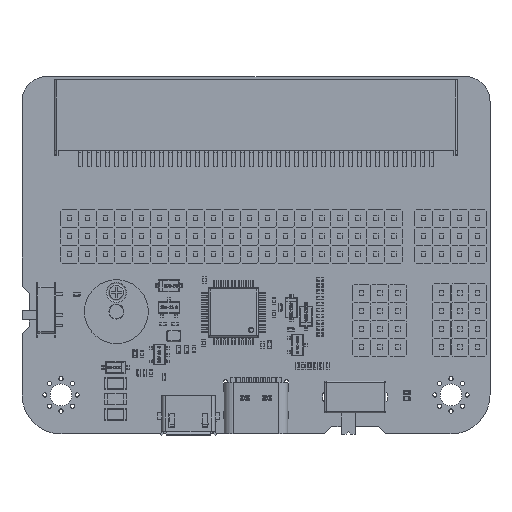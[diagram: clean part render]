
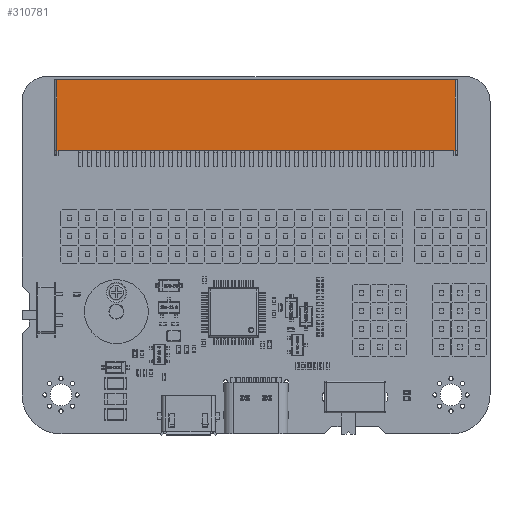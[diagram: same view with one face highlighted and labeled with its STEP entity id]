
A CAD part, top view. The second image highlights one B-rep face of the part: STEP entity #310781.
In plain terms, the highlighted planar face has unit normal (0, 0, 1).
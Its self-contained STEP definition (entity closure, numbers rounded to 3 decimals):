
#310131 = PLANE('',#310132);
#310132 = AXIS2_PLACEMENT_3D('',#310133,#310134,#310135);
#310133 = CARTESIAN_POINT('',(-28.4,0.,2.));
#310134 = DIRECTION('',(0.,1.,0.));
#310135 = DIRECTION('',(1.,0.,0.));
#310156 = VERTEX_POINT('',#310157);
#310157 = CARTESIAN_POINT('',(-28.1,0.,10.2));
#310172 = CYLINDRICAL_SURFACE('',#310173,0.3);
#310173 = AXIS2_PLACEMENT_3D('',#310174,#310175,#310176);
#310174 = CARTESIAN_POINT('',(-28.1,-10.,9.9));
#310175 = DIRECTION('',(0.,1.,0.));
#310176 = DIRECTION('',(-1.,0.,0.));
#310184 = EDGE_CURVE('',#310156,#310185,#310187,.T.);
#310185 = VERTEX_POINT('',#310186);
#310186 = CARTESIAN_POINT('',(28.1,0.,10.2));
#310187 = SURFACE_CURVE('',#310188,(#310192,#310199),.PCURVE_S1.);
#310188 = LINE('',#310189,#310190);
#310189 = CARTESIAN_POINT('',(-28.4,0.,10.2));
#310190 = VECTOR('',#310191,1.);
#310191 = DIRECTION('',(1.,0.,0.));
#310192 = PCURVE('',#310131,#310193);
#310193 = DEFINITIONAL_REPRESENTATION('',(#310194),#310198);
#310194 = LINE('',#310195,#310196);
#310195 = CARTESIAN_POINT('',(0.,-8.2));
#310196 = VECTOR('',#310197,1.);
#310197 = DIRECTION('',(1.,0.));
#310198 = ( GEOMETRIC_REPRESENTATION_CONTEXT(2) 
PARAMETRIC_REPRESENTATION_CONTEXT() REPRESENTATION_CONTEXT('2D SPACE',''
  ) );
#310199 = PCURVE('',#310200,#310205);
#310200 = PLANE('',#310201);
#310201 = AXIS2_PLACEMENT_3D('',#310202,#310203,#310204);
#310202 = CARTESIAN_POINT('',(-28.4,0.,10.2));
#310203 = DIRECTION('',(0.,0.,1.));
#310204 = DIRECTION('',(1.,0.,0.));
#310205 = DEFINITIONAL_REPRESENTATION('',(#310206),#310210);
#310206 = LINE('',#310207,#310208);
#310207 = CARTESIAN_POINT('',(0.,0.));
#310208 = VECTOR('',#310209,1.);
#310209 = DIRECTION('',(1.,0.));
#310210 = ( GEOMETRIC_REPRESENTATION_CONTEXT(2) 
PARAMETRIC_REPRESENTATION_CONTEXT() REPRESENTATION_CONTEXT('2D SPACE',''
  ) );
#310229 = CYLINDRICAL_SURFACE('',#310230,0.3);
#310230 = AXIS2_PLACEMENT_3D('',#310231,#310232,#310233);
#310231 = CARTESIAN_POINT('',(28.1,0.,9.9));
#310232 = DIRECTION('',(0.,-1.,0.));
#310233 = DIRECTION('',(0.,0.,1.));
#310652 = VERTEX_POINT('',#310653);
#310653 = CARTESIAN_POINT('',(-28.1,-10.,10.2));
#310678 = EDGE_CURVE('',#310652,#310156,#310679,.T.);
#310679 = SURFACE_CURVE('',#310680,(#310684,#310691),.PCURVE_S1.);
#310680 = LINE('',#310681,#310682);
#310681 = CARTESIAN_POINT('',(-28.1,-10.,10.2));
#310682 = VECTOR('',#310683,1.);
#310683 = DIRECTION('',(0.,1.,0.));
#310684 = PCURVE('',#310172,#310685);
#310685 = DEFINITIONAL_REPRESENTATION('',(#310686),#310690);
#310686 = LINE('',#310687,#310688);
#310687 = CARTESIAN_POINT('',(1.571,0.));
#310688 = VECTOR('',#310689,1.);
#310689 = DIRECTION('',(0.,1.));
#310690 = ( GEOMETRIC_REPRESENTATION_CONTEXT(2) 
PARAMETRIC_REPRESENTATION_CONTEXT() REPRESENTATION_CONTEXT('2D SPACE',''
  ) );
#310691 = PCURVE('',#310200,#310692);
#310692 = DEFINITIONAL_REPRESENTATION('',(#310693),#310697);
#310693 = LINE('',#310694,#310695);
#310694 = CARTESIAN_POINT('',(0.3,-10.));
#310695 = VECTOR('',#310696,1.);
#310696 = DIRECTION('',(0.,1.));
#310697 = ( GEOMETRIC_REPRESENTATION_CONTEXT(2) 
PARAMETRIC_REPRESENTATION_CONTEXT() REPRESENTATION_CONTEXT('2D SPACE',''
  ) );
#310781 = ADVANCED_FACE('',(#310782),#310200,.T.);
#310782 = FACE_BOUND('',#310783,.T.);
#310783 = EDGE_LOOP('',(#310784,#310785,#310786,#310814,#310842,#310870)
  );
#310784 = ORIENTED_EDGE('',*,*,#310184,.F.);
#310785 = ORIENTED_EDGE('',*,*,#310678,.F.);
#310786 = ORIENTED_EDGE('',*,*,#310787,.T.);
#310787 = EDGE_CURVE('',#310652,#310788,#310790,.T.);
#310788 = VERTEX_POINT('',#310789);
#310789 = CARTESIAN_POINT('',(-27.9,-10.,10.2));
#310790 = SURFACE_CURVE('',#310791,(#310795,#310802),.PCURVE_S1.);
#310791 = LINE('',#310792,#310793);
#310792 = CARTESIAN_POINT('',(-28.4,-10.,10.2));
#310793 = VECTOR('',#310794,1.);
#310794 = DIRECTION('',(1.,0.,0.));
#310795 = PCURVE('',#310200,#310796);
#310796 = DEFINITIONAL_REPRESENTATION('',(#310797),#310801);
#310797 = LINE('',#310798,#310799);
#310798 = CARTESIAN_POINT('',(0.,-10.));
#310799 = VECTOR('',#310800,1.);
#310800 = DIRECTION('',(1.,0.));
#310801 = ( GEOMETRIC_REPRESENTATION_CONTEXT(2) 
PARAMETRIC_REPRESENTATION_CONTEXT() REPRESENTATION_CONTEXT('2D SPACE',''
  ) );
#310802 = PCURVE('',#310803,#310808);
#310803 = PLANE('',#310804);
#310804 = AXIS2_PLACEMENT_3D('',#310805,#310806,#310807);
#310805 = CARTESIAN_POINT('',(-28.4,-10.,10.2));
#310806 = DIRECTION('',(0.,0.,1.));
#310807 = DIRECTION('',(1.,0.,0.));
#310808 = DEFINITIONAL_REPRESENTATION('',(#310809),#310813);
#310809 = LINE('',#310810,#310811);
#310810 = CARTESIAN_POINT('',(0.,0.));
#310811 = VECTOR('',#310812,1.);
#310812 = DIRECTION('',(1.,0.));
#310813 = ( GEOMETRIC_REPRESENTATION_CONTEXT(2) 
PARAMETRIC_REPRESENTATION_CONTEXT() REPRESENTATION_CONTEXT('2D SPACE',''
  ) );
#310814 = ORIENTED_EDGE('',*,*,#310815,.F.);
#310815 = EDGE_CURVE('',#310816,#310788,#310818,.T.);
#310816 = VERTEX_POINT('',#310817);
#310817 = CARTESIAN_POINT('',(27.9,-10.,10.2));
#310818 = SURFACE_CURVE('',#310819,(#310823,#310830),.PCURVE_S1.);
#310819 = LINE('',#310820,#310821);
#310820 = CARTESIAN_POINT('',(28.4,-10.,10.2));
#310821 = VECTOR('',#310822,1.);
#310822 = DIRECTION('',(-1.,0.,0.));
#310823 = PCURVE('',#310200,#310824);
#310824 = DEFINITIONAL_REPRESENTATION('',(#310825),#310829);
#310825 = LINE('',#310826,#310827);
#310826 = CARTESIAN_POINT('',(56.8,-10.));
#310827 = VECTOR('',#310828,1.);
#310828 = DIRECTION('',(-1.,0.));
#310829 = ( GEOMETRIC_REPRESENTATION_CONTEXT(2) 
PARAMETRIC_REPRESENTATION_CONTEXT() REPRESENTATION_CONTEXT('2D SPACE',''
  ) );
#310830 = PCURVE('',#310831,#310836);
#310831 = PLANE('',#310832);
#310832 = AXIS2_PLACEMENT_3D('',#310833,#310834,#310835);
#310833 = CARTESIAN_POINT('',(28.4,-10.,2.));
#310834 = DIRECTION('',(0.,-1.,0.));
#310835 = DIRECTION('',(-1.,0.,0.));
#310836 = DEFINITIONAL_REPRESENTATION('',(#310837),#310841);
#310837 = LINE('',#310838,#310839);
#310838 = CARTESIAN_POINT('',(0.,-8.2));
#310839 = VECTOR('',#310840,1.);
#310840 = DIRECTION('',(1.,0.));
#310841 = ( GEOMETRIC_REPRESENTATION_CONTEXT(2) 
PARAMETRIC_REPRESENTATION_CONTEXT() REPRESENTATION_CONTEXT('2D SPACE',''
  ) );
#310842 = ORIENTED_EDGE('',*,*,#310843,.F.);
#310843 = EDGE_CURVE('',#310844,#310816,#310846,.T.);
#310844 = VERTEX_POINT('',#310845);
#310845 = CARTESIAN_POINT('',(28.1,-10.,10.2));
#310846 = SURFACE_CURVE('',#310847,(#310851,#310858),.PCURVE_S1.);
#310847 = LINE('',#310848,#310849);
#310848 = CARTESIAN_POINT('',(28.4,-10.,10.2));
#310849 = VECTOR('',#310850,1.);
#310850 = DIRECTION('',(-1.,0.,0.));
#310851 = PCURVE('',#310200,#310852);
#310852 = DEFINITIONAL_REPRESENTATION('',(#310853),#310857);
#310853 = LINE('',#310854,#310855);
#310854 = CARTESIAN_POINT('',(56.8,-10.));
#310855 = VECTOR('',#310856,1.);
#310856 = DIRECTION('',(-1.,0.));
#310857 = ( GEOMETRIC_REPRESENTATION_CONTEXT(2) 
PARAMETRIC_REPRESENTATION_CONTEXT() REPRESENTATION_CONTEXT('2D SPACE',''
  ) );
#310858 = PCURVE('',#310859,#310864);
#310859 = PLANE('',#310860);
#310860 = AXIS2_PLACEMENT_3D('',#310861,#310862,#310863);
#310861 = CARTESIAN_POINT('',(28.4,-10.,10.2));
#310862 = DIRECTION('',(0.,0.,-1.));
#310863 = DIRECTION('',(-1.,0.,0.));
#310864 = DEFINITIONAL_REPRESENTATION('',(#310865),#310869);
#310865 = LINE('',#310866,#310867);
#310866 = CARTESIAN_POINT('',(0.,0.));
#310867 = VECTOR('',#310868,1.);
#310868 = DIRECTION('',(1.,0.));
#310869 = ( GEOMETRIC_REPRESENTATION_CONTEXT(2) 
PARAMETRIC_REPRESENTATION_CONTEXT() REPRESENTATION_CONTEXT('2D SPACE',''
  ) );
#310870 = ORIENTED_EDGE('',*,*,#310871,.F.);
#310871 = EDGE_CURVE('',#310185,#310844,#310872,.T.);
#310872 = SURFACE_CURVE('',#310873,(#310877,#310884),.PCURVE_S1.);
#310873 = LINE('',#310874,#310875);
#310874 = CARTESIAN_POINT('',(28.1,0.,10.2));
#310875 = VECTOR('',#310876,1.);
#310876 = DIRECTION('',(0.,-1.,0.));
#310877 = PCURVE('',#310200,#310878);
#310878 = DEFINITIONAL_REPRESENTATION('',(#310879),#310883);
#310879 = LINE('',#310880,#310881);
#310880 = CARTESIAN_POINT('',(56.5,0.));
#310881 = VECTOR('',#310882,1.);
#310882 = DIRECTION('',(0.,-1.));
#310883 = ( GEOMETRIC_REPRESENTATION_CONTEXT(2) 
PARAMETRIC_REPRESENTATION_CONTEXT() REPRESENTATION_CONTEXT('2D SPACE',''
  ) );
#310884 = PCURVE('',#310229,#310885);
#310885 = DEFINITIONAL_REPRESENTATION('',(#310886),#310890);
#310886 = LINE('',#310887,#310888);
#310887 = CARTESIAN_POINT('',(6.283,0.));
#310888 = VECTOR('',#310889,1.);
#310889 = DIRECTION('',(0.,1.));
#310890 = ( GEOMETRIC_REPRESENTATION_CONTEXT(2) 
PARAMETRIC_REPRESENTATION_CONTEXT() REPRESENTATION_CONTEXT('2D SPACE',''
  ) );
